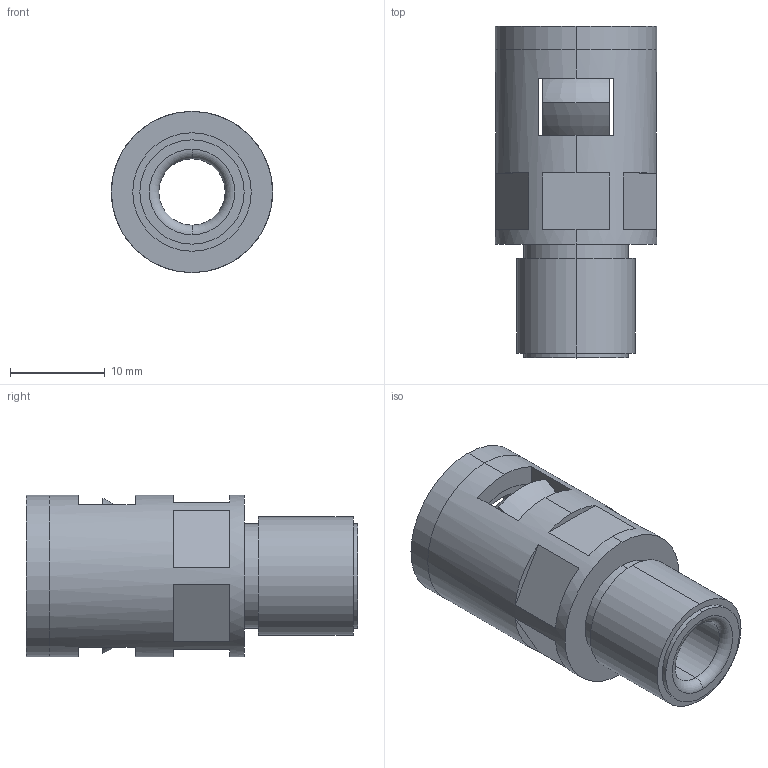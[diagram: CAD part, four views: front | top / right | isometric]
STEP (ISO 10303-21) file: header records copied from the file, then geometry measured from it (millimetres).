
FILE_DESCRIPTION (( 'STEP AP203' ), '1' );
FILE_NAME ('WQG-P07-AD10.0.STEP', '2015-12-23T07:38:21', ( 'User' ), ( 'Microsoft' ), 'SwSTEP 2.0', 'SolidWorks 2010', '' );
FILE_SCHEMA (( 'CONFIG_CONTROL_DESIGN' ));
Length unit declared in the file: millimetre
Products named in the file (4): GFD-AD10.0; WQG-P07-AD10.0-01; WQG-P07-AD10.0; NSK-AD10.0
Assembly tree (3 placements, depth 2):
  WQG-P07-AD10.0
    GFD-AD10.0
    NSK-AD10.0
    WQG-P07-AD10.0-01
Bounding box: 17 x 35 x 17 mm (x, y, z)
Volume: 3041.2 mm3; surface area: 5194.7 mm2
Topology: 2 solids, 5 shells, 140 faces, 336 edges, 206 vertices
Faces by surface type: plane 54, cone 44, cylinder 22, torus 20
Entity records: 4620 total; most frequent: CARTESIAN_POINT 825, DIRECTION 788, ORIENTED_EDGE 668, EDGE_CURVE 336, AXIS2_PLACEMENT_3D 325, VERTEX_POINT 206, CIRCLE 178, EDGE_LOOP 155
